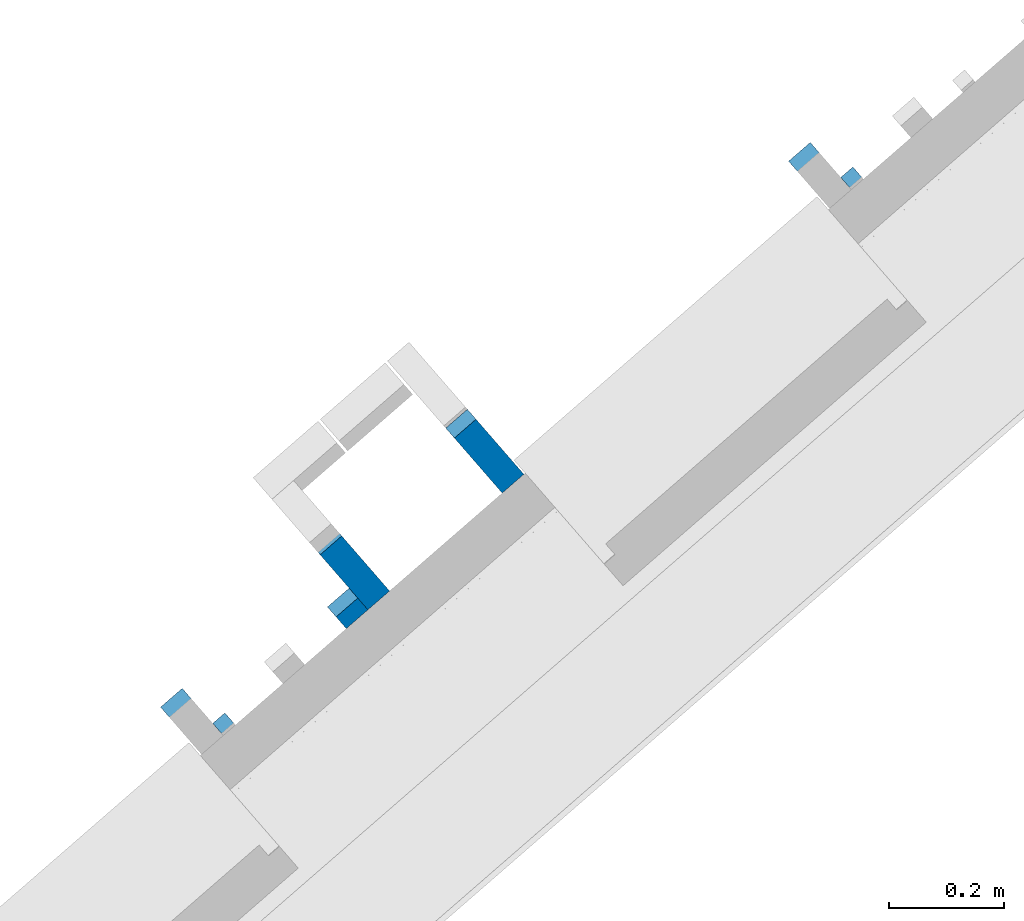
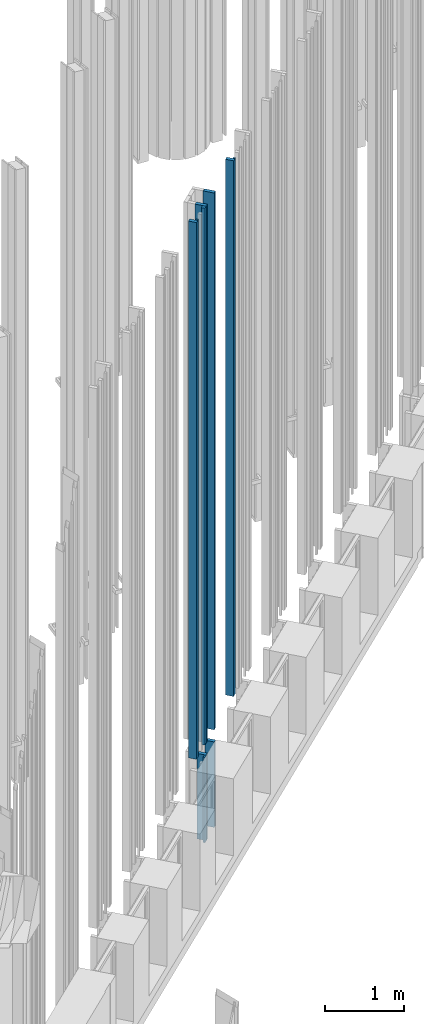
# One storey, part 239 of 390: 10 walls.
"""IFC2X3 building model written with IfcOpenShell, lengths in millimetres."""

import ifcopenshell
import ifcopenshell.guid

model = None  # the IFC model being written
_history = None  # IfcOwnerHistory: only IFC2X3 demands one
_inside = {}  # id of a spatial element -> (the spatial element, [elements in it])
_under = {}  # id of a project, library or spatial element -> (it, [spatial elements below it])
_declared = {}  # id of a project -> (the project, [libraries it declares])
_typed = {}  # id of a type object -> (the type object, [elements of that type])
_made_of = {}  # id of a material, layer set ... -> (it, [elements and type objects made of it])


def new_model(schema):
    """Start an empty IFC model of exactly this schema.

    Asked for "IFC4X3", IfcOpenShell would pick the latest addendum, in which some entities
    have other attributes; the version numbers below select the first issue.
    IFC2X3 requires an IfcOwnerHistory on every rooted entity: one is made here for all.
    """
    global model, _history
    if schema == "IFC4X3":
        model = ifcopenshell.file(schema_version=(4, 3, 0, 0))
    else:
        model = ifcopenshell.file(schema=schema)
    _inside.clear()
    _under.clear()
    _declared.clear()
    _typed.clear()
    _made_of.clear()
    _history = None
    if model.schema == "IFC2X3":
        org = make("IfcOrganization", Name="unknown")
        user = make(
            "IfcPersonAndOrganization",
            ThePerson=make("IfcPerson", FamilyName="unknown"),
            TheOrganization=org,
        )
        app = make(
            "IfcApplication",
            ApplicationDeveloper=org,
            Version="unknown",
            ApplicationFullName="unknown",
            ApplicationIdentifier="unknown",
        )
        _history = make(
            "IfcOwnerHistory",
            OwningUser=user,
            OwningApplication=app,
            ChangeAction="ADDED",
            CreationDate=0,
        )
    return model


def make(cls, **values):
    """One entity of the class cls with the attributes given. An attribute that is None is left unset."""
    return model.create_entity(
        cls, **{name: value for name, value in values.items() if value is not None}
    )


def entity(cls, *values):
    """Any entity or typed value of the class cls, its attributes in the order of the schema. None: left unset."""
    e = model.create_entity(cls)
    for i, value in enumerate(values):
        if value is not None:
            e[i] = value
    return e


def rooted(cls, **values):
    """An entity with a GlobalId (a new one), such as an element, a storey or a relation."""
    return make(cls, GlobalId=ifcopenshell.guid.new(), OwnerHistory=_history, **values)


def si_unit(unit_type, name, prefix=None):
    """IfcSIUnit, for example si_unit("LENGTHUNIT", "METRE", prefix="MILLI")."""
    return make("IfcSIUnit", UnitType=unit_type, Prefix=prefix, Name=name)


def converted_unit(unit_type, name, factor, base, dimensions=None, offset=None):
    """IfcConversionBasedUnit, such as the inch: factor (a typed value) times the base unit."""
    return make(
        "IfcConversionBasedUnit"
        if offset is None
        else "IfcConversionBasedUnitWithOffset",
        ConversionOffset=offset,
        Dimensions=None
        if dimensions is None
        else entity("IfcDimensionalExponents", *dimensions),
        UnitType=unit_type,
        Name=name,
        ConversionFactor=make(
            "IfcMeasureWithUnit", ValueComponent=factor, UnitComponent=base
        ),
    )


def derived_unit(unit_type, elements):
    """IfcDerivedUnit: a product of units, each with its exponent."""
    return make(
        "IfcDerivedUnit",
        Elements=[
            make("IfcDerivedUnitElement", Unit=unit, Exponent=power)
            for unit, power in elements
        ],
        UnitType=unit_type,
    )


def money_unit(currency):
    """IfcMonetaryUnit."""
    return make("IfcMonetaryUnit", Currency=currency)


def assignment(units):
    """IfcUnitAssignment: the units of a project."""
    return None if units is None else make("IfcUnitAssignment", Units=units)


def point(xyz):
    """IfcCartesianPoint."""
    return None if xyz is None else make("IfcCartesianPoint", Coordinates=xyz)


def direction(xyz):
    """IfcDirection."""
    return None if xyz is None else make("IfcDirection", DirectionRatios=xyz)


def frame(location, z_axis=None, x_axis=None):
    """IfcAxis2Placement3D, a coordinate frame: its origin and axes. An axis left out is left unset."""
    return make(
        "IfcAxis2Placement3D",
        Location=point(location),
        Axis=direction(z_axis),
        RefDirection=direction(x_axis),
    )


def origin_with_axes():
    """The frame at (0, 0, 0) with the z axis (0, 0, 1) and the x axis (1, 0, 0) written out."""
    return frame((0.0, 0.0, 0.0), z_axis=(0.0, 0.0, 1.0), x_axis=(1.0, 0.0, 0.0))


def place(relative_to, where):
    """IfcLocalPlacement: puts the frame where relative to a parent placement (None: the world)."""
    return make(
        "IfcLocalPlacement", PlacementRelTo=relative_to, RelativePlacement=where
    )


def context(
    kind, dimensions, precision=None, world=None, true_north=None, identifier=None
):
    """IfcGeometricRepresentationContext, for example the 3D "Model" context."""
    return make(
        "IfcGeometricRepresentationContext",
        ContextIdentifier=identifier,
        ContextType=kind,
        CoordinateSpaceDimension=dimensions,
        Precision=precision,
        WorldCoordinateSystem=world,
        TrueNorth=true_north,
    )


def subcontext(parent, identifier, kind, view, scale=None):
    """IfcGeometricRepresentationSubContext, for example "Body" below "Model"."""
    return make(
        "IfcGeometricRepresentationSubContext",
        ContextIdentifier=identifier,
        ContextType=kind,
        ParentContext=parent,
        TargetScale=scale,
        TargetView=view,
    )


def project(units=None, contexts=None):
    """IfcProject with its units and contexts."""
    return rooted(
        "IfcProject",
        Name="project",
        RepresentationContexts=contexts,
        UnitsInContext=assignment(units),
    )


def spatial(cls, under=None, at=None, **own):
    """A site, building, storey or space (cls), placed at a placement, below another one or the project."""
    s = rooted(cls, ObjectPlacement=at, **own)
    if under is not None:
        _under.setdefault(under.id(), (under, []))[1].append(s)
    return s


def faces_of(points, faces, orient=None, outer=None):
    """IfcFace entities. A face is a list of loops; a loop is a list of indices into points, from 0.

    orient and outer hold one flag for each loop. By default every Orientation is true, the
    first loop of a face is its IfcFaceOuterBound and the others are IfcFaceBound.
    """
    made = []
    for i, loops in enumerate(faces):
        bounds = []
        for j, loop in enumerate(loops):
            is_outer = j == 0 if outer is None else outer[i][j]
            bounds.append(
                make(
                    "IfcFaceOuterBound" if is_outer else "IfcFaceBound",
                    Bound=make("IfcPolyLoop", Polygon=[points[k] for k in loop]),
                    Orientation=True if orient is None else orient[i][j],
                )
            )
        made.append(make("IfcFace", Bounds=bounds))
    return made


def faceted_brep(points, faces, orient=None, outer=None, voids=None):
    """IfcFacetedBrep: a solid bounded by flat faces; with voids (closed shells), ...WithVoids."""
    shared = [point(p) for p in points]
    hull = make("IfcClosedShell", CfsFaces=faces_of(shared, faces, orient, outer))
    if voids is None:
        return make("IfcFacetedBrep", Outer=hull)
    return make(
        "IfcFacetedBrepWithVoids",
        Outer=hull,
        Voids=[
            make(cls, CfsFaces=faces_of(shared, fs, o, b)) for cls, fs, o, b in voids
        ],
    )


def shape(context_of_items, identifier, shape_type, items):
    """IfcShapeRepresentation: the items that make up one representation, for example the "Body"."""
    return make(
        "IfcShapeRepresentation",
        ContextOfItems=context_of_items,
        RepresentationIdentifier=identifier,
        RepresentationType=shape_type,
        Items=items,
    )


def material(Name=None, Category=None):
    """IfcMaterial."""
    return make("IfcMaterial", Name=Name, Category=Category)


def made_of(thing, what):
    """Note that an element or type object is made of a material, layer set ...; save() writes the relation."""
    if what is not None:
        _made_of.setdefault(what.id(), (what, []))[1].append(thing)
    return thing


def type_object(cls, material=None, **own):
    """A type object (cls), such as IfcWallType, which elements share."""
    return made_of(rooted(cls, **own), material)


def element(
    cls,
    number,
    at=None,
    inside=None,
    cuts=None,
    type_object=None,
    material=None,
    context=None,
    identifier="Body",
    shape_type=None,
    held_by="IfcProductDefinitionShape",
    body=None,
    shapes=None,
    **own,
):
    """One element of the class cls, such as IfcWall. Its Tag is "e" and its number.

    at: its placement. inside: the storey or other place that contains it. cuts: it is an
    opening in that element (IfcRelVoidsElement). A single representation is given by context,
    identifier, shape_type and body (its items); several are given by shapes. held_by: the class
    of the entity that holds the representations. save() writes the other relations.
    """
    e = rooted(cls, Tag="e%d" % number, ObjectPlacement=at, **own)
    if body is not None:
        shapes = [shape(context, identifier, shape_type, body)]
    if shapes is not None:
        e.Representation = make(held_by, Representations=shapes)
    if inside is not None:
        _inside.setdefault(inside.id(), (inside, []))[1].append(e)
    if cuts is not None:
        rooted(
            "IfcRelVoidsElement", RelatingBuildingElement=cuts, RelatedOpeningElement=e
        )
    if type_object is not None:
        _typed.setdefault(type_object.id(), (type_object, []))[1].append(e)
    return made_of(e, material)


def aggregate(whole, parts):
    """IfcRelAggregates: a whole, such as a stair, and the parts it consists of."""
    return rooted("IfcRelAggregates", RelatingObject=whole, RelatedObjects=parts)


def save(model, path):
    """Write the relations noted so far, then the file.

    IfcRelAggregates (storeys below a building ...), IfcRelContainedInSpatialStructure (elements
    in a storey), IfcRelDefinesByType, IfcRelAssociatesMaterial and IfcRelDeclares: one each for
    every whole, place, type object, material and project.
    """
    for whole, parts in _under.values():
        aggregate(whole, parts)
    for where, things in _inside.values():
        rooted(
            "IfcRelContainedInSpatialStructure",
            RelatedElements=things,
            RelatingStructure=where,
        )
    for kind, things in _typed.values():
        rooted("IfcRelDefinesByType", RelatedObjects=things, RelatingType=kind)
    for what, things in _made_of.values():
        rooted("IfcRelAssociatesMaterial", RelatedObjects=things, RelatingMaterial=what)
    for by, libraries in _declared.values():
        rooted("IfcRelDeclares", RelatingContext=by, RelatedDefinitions=libraries)
    model.write(path)


model = new_model("IFC2X3")

# Units and contexts
model_context = context("Model", 3, precision=1e-05, world=origin_with_axes(), true_north=direction((0.0, 1.0)))
body_context = subcontext(model_context, "Body", "Model", "MODEL_VIEW")
ifc_project = project(units=[si_unit("LENGTHUNIT", "METRE", prefix="MILLI"), si_unit("AREAUNIT", "SQUARE_METRE"), si_unit("VOLUMEUNIT", "CUBIC_METRE"), converted_unit("PLANEANGLEUNIT", "DEGREE", entity("IfcPlaneAngleMeasure", 0.0174532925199), si_unit("PLANEANGLEUNIT", "RADIAN"), dimensions=[0, 0, 0, 0, 0, 0, 0]), si_unit("SOLIDANGLEUNIT", "STERADIAN"), money_unit("EUR"), converted_unit("TIMEUNIT", "Year", entity("IfcTimeMeasure", 31556926.0), si_unit("TIMEUNIT", "SECOND"), dimensions=[0, 0, 1, 0, 0, 0, 0]), si_unit("MASSUNIT", "GRAM", prefix="KILO"), si_unit("THERMODYNAMICTEMPERATUREUNIT", "DEGREE_CELSIUS"), si_unit("LUMINOUSINTENSITYUNIT", "LUMEN"), si_unit("ENERGYUNIT", "JOULE", prefix="MEGA"), derived_unit("THERMALCONDUCTANCEUNIT", [(si_unit("POWERUNIT", "WATT"), 1), (si_unit("LENGTHUNIT", "METRE"), -1), (si_unit("THERMODYNAMICTEMPERATUREUNIT", "KELVIN"), -1)]), derived_unit("SPECIFICHEATCAPACITYUNIT", [(si_unit("ENERGYUNIT", "JOULE"), 1), (si_unit("MASSUNIT", "GRAM", prefix="KILO"), -1), (si_unit("THERMODYNAMICTEMPERATUREUNIT", "KELVIN"), -1)]), derived_unit("MASSDENSITYUNIT", [(si_unit("MASSUNIT", "GRAM", prefix="KILO"), 1), (si_unit("VOLUMEUNIT", "CUBIC_METRE"), -1)])], contexts=[model_context])

# Site, building, storey
site_placement = place(None, origin_with_axes())
site = spatial("IfcSite", under=ifc_project, at=site_placement, Name="Site", CompositionType="ELEMENT")
building_placement = place(site_placement, origin_with_axes())
building = spatial("IfcBuilding", under=site, at=building_placement, Name="Building", CompositionType="ELEMENT")
storey_placement = place(building_placement, origin_with_axes())
storey = spatial("IfcBuildingStorey", under=building, at=storey_placement, Name="1 korrus", CompositionType="ELEMENT", Elevation=0.0)

# Walls
ifc_material = material(Name="Site specified")
wall_type_1 = type_object("IfcWallType", Name="Puitfassaadi ribistik", PredefinedType="NOTDEFINED")
wall_1_placement = place(storey_placement, frame((142233.410944, 93678.0335044, 1518.28178601), z_axis=(0.0, 0.0, 1.0), x_axis=(0.754709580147, 0.656059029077, 0.0)))
element("IfcWall", 1, at=wall_1_placement, inside=storey, type_object=wall_type_1, material=ifc_material, Name="Site specified", context=body_context, shape_type="Brep", body=[
    faceted_brep([(25.0, 25.0, 8346.71821399), (25.0, 25.0, 0.0), (-25.0, 25.0, 0.0), (-25.0, 25.0, 8346.71821399), (25.0, -25.0, 8346.71821399), (25.0, -25.0, 0.0), (-25.0, -25.0, 0.0), (-25.0, -25.0, 8346.71821399)], [[[0, 1, 2, 3]], [[4, 5, 1, 0]], [[2, 1, 5, 6]], [[3, 2, 6, 7]], [[4, 0, 3, 7]], [[7, 6, 5, 4]]]),
])
wall_2_placement = place(storey_placement, frame((143056.313321, 94432.4596026, 1535.82031325), z_axis=(0.0, 0.0, 1.0), x_axis=(0.754709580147, 0.656059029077, 0.0)))
element("IfcWall", 2, at=wall_2_placement, inside=storey, type_object=wall_type_1, material=ifc_material, Name="Site specified", context=body_context, shape_type="Brep", body=[
    faceted_brep([(25.0, 54.5, 8329.17968675), (25.0, 54.5, 0.0), (-25.0, 54.5, 0.0), (-25.0, 54.5, 8329.17968675), (25.0, -54.5, 8329.17968675), (25.0, -54.5, 0.0), (-25.0, -54.5, 0.0), (-25.0, -54.5, 8329.17968675)], [[[0, 1, 2, 3]], [[4, 5, 1, 0]], [[2, 1, 5, 6]], [[3, 2, 6, 7]], [[4, 0, 3, 7]], [[7, 6, 5, 4]]]),
])
wall_3_placement = place(storey_placement, frame((143112.317385, 94427.4801667, 1535.82031325), z_axis=(0.0, 0.0, 1.0), x_axis=(0.754709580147, 0.656059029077, 0.0)))
element("IfcWall", 3, at=wall_3_placement, inside=storey, type_object=wall_type_1, material=ifc_material, Name="Site specified", context=body_context, shape_type="Brep", body=[
    faceted_brep([(14.0, 14.0, 8329.17968675), (14.0, 14.0, 0.0), (-14.0, 14.0, 0.0), (-14.0, 14.0, 8329.17968675), (14.0, -14.0, 8329.17968675), (14.0, -14.0, 0.0), (-14.0, -14.0, 0.0), (-14.0, -14.0, 8329.17968675)], [[[0, 1, 2, 3]], [[4, 5, 1, 0]], [[2, 1, 5, 6]], [[3, 2, 6, 7]], [[4, 0, 3, 7]], [[7, 6, 5, 4]]]),
])
wall_4_placement = place(storey_placement, frame((142248.500301, 93660.6751838, 0.0), z_axis=(0.0, 0.0, 1.0), x_axis=(0.754709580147, 0.656059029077, 0.0)))
element("IfcWall", 4, at=wall_4_placement, inside=storey, type_object=wall_type_1, material=ifc_material, Name="Site specified", context=body_context, shape_type="Brep", body=[
    faceted_brep([(-25.0, 25.0, 1330.0), (-25.0, -2.0154438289, 1330.0), (25.0000000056, -2.01556224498, 1330.0), (25.0, 25.0, 1330.0), (-25.0, 25.0, 0.0), (-25.0, -2.01783321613, 0.0), (25.0, -2.01794642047, 0.0), (25.0, 25.0, 0.0)], [[[0, 1, 2, 3]], [[4, 5, 1, 0]], [[5, 6, 2, 1]], [[3, 2, 6, 7]], [[0, 3, 7, 4]], [[7, 6, 5, 4]]]),
])
wall_5_placement = place(storey_placement, frame((142017.988249, 93476.1943613, 1518.28178601), z_axis=(0.0, 0.0, 1.0), x_axis=(0.754709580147, 0.656059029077, 0.0)))
element("IfcWall", 5, at=wall_5_placement, inside=storey, type_object=wall_type_1, material=ifc_material, Name="Site specified", context=body_context, shape_type="Brep", body=[
    faceted_brep([(14.0, 14.0, 8346.71821399), (14.0, 14.0, 0.0), (-14.0, 14.0, 0.0), (-14.0, 14.0, 8346.71821399), (14.0, -14.0, 8346.71821399), (14.0, -14.0, 0.0), (-14.0, -14.0, 0.0), (-14.0, -14.0, 8346.71821399)], [[[0, 1, 2, 3]], [[4, 5, 1, 0]], [[2, 1, 5, 6]], [[3, 2, 6, 7]], [[4, 0, 3, 7]], [[7, 6, 5, 4]]]),
])
wall_6_placement = place(storey_placement, frame((141961.984184, 93481.1737972, 1518.28178601), z_axis=(0.0, 0.0, 1.0), x_axis=(0.754709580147, 0.656059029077, 0.0)))
element("IfcWall", 6, at=wall_6_placement, inside=storey, type_object=wall_type_1, material=ifc_material, Name="Site specified", context=body_context, shape_type="Brep", body=[
    faceted_brep([(25.0, 54.5, 8346.71821399), (25.0, 54.5, 0.0), (-25.0, 54.5, 0.0), (-25.0, 54.5, 8346.71821399), (25.0, -54.5, 8346.71821399), (25.0, -54.5, 0.0), (-25.0, -54.5, 0.0), (-25.0, -54.5, 8346.71821399)], [[[0, 1, 2, 3]], [[4, 5, 1, 0]], [[2, 1, 5, 6]], [[3, 2, 6, 7]], [[4, 0, 3, 7]], [[7, 6, 5, 4]]]),
])
wall_type_2 = type_object("IfcWallType", Name="Puitfassaadi ribisik", PredefinedType="NOTDEFINED")
wall_7_placement = place(storey_placement, frame((142253.432828, 93731.2136142, 0.0), z_axis=(0.0, 0.0, 1.0), x_axis=(0.754709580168, 0.656059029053, 0.0)))
element("IfcWall", 7, at=wall_7_placement, inside=storey, type_object=wall_type_2, material=ifc_material, Name="Site specified", context=body_context, shape_type="Brep", body=[
    faceted_brep([(-25.0, 75.0, 1329.9999949), (-25.0, -52.015562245, 1330.0), (25.0000000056, -52.0156806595, 1330.0), (25.0, 75.0, 1329.9999949), (-25.0, 75.0, 0.0), (-25.0, -52.0179464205, 0.0), (25.0, -52.0180596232, 0.0), (25.0, 75.0, 0.0)], [[[0, 1, 2, 3]], [[4, 5, 1, 0]], [[5, 6, 2, 1]], [[3, 2, 6, 7]], [[0, 3, 7, 4]], [[7, 6, 5, 4]]]),
])
wall_8_placement = place(storey_placement, frame((142487.392777, 93934.5919868, 0.0), z_axis=(0.0, 0.0, 1.0), x_axis=(0.754709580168, 0.656059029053, 0.0)))
element("IfcWall", 8, at=wall_8_placement, inside=storey, type_object=wall_type_2, material=ifc_material, Name="Site specified", context=body_context, shape_type="Brep", body=[
    faceted_brep([(-25.0, 75.0, 1329.9999949), (-25.0, -52.0163656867, 1330.0), (25.0000000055, -52.0164841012, 1330.0), (25.0, 75.0, 1329.9999949), (-25.0, 75.0, 0.0), (-25.0, -52.0187175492, 0.0), (25.0, -52.0188307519, 0.0), (25.0, 75.0, 0.0)], [[[0, 1, 2, 3]], [[4, 5, 1, 0]], [[5, 6, 2, 1]], [[3, 2, 6, 7]], [[0, 3, 7, 4]], [[7, 6, 5, 4]]]),
])
for number, where, z_axis, x_axis, name in (
    (9, (142472.30342, 93951.9503075, 1518.28178601), (0.0, 0.0, 1.0), (0.754709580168, 0.656059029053, 0.0), "Site specified"),
    (10, (142238.343471, 93748.5719349, 1518.28178601), (0.0, 0.0, 1.0), (0.754709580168, 0.656059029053, 0.0), "Site specified"),
):
    element("IfcWall", number, at=place(storey_placement, frame(where, z_axis=z_axis, x_axis=x_axis)), inside=storey, type_object=wall_type_2, material=ifc_material, Name=name, context=body_context, shape_type="Brep", body=[
        faceted_brep([(-25.0, -75.0, 8346.71820889), (-25.0, -75.0, 0.0), (25.0, -75.0, 0.0), (25.0, -75.0, 8346.71820889), (-25.0, 75.0, 8346.71820889), (-25.0, 75.0, 0.0), (25.0, 75.0, 0.0), (25.0, 75.0, 8346.71820889)], [[[0, 1, 2, 3]], [[4, 5, 1, 0]], [[2, 1, 5, 6]], [[3, 2, 6, 7]], [[4, 0, 3, 7]], [[7, 6, 5, 4]]]),
    ])

save(model, "model.ifc")
